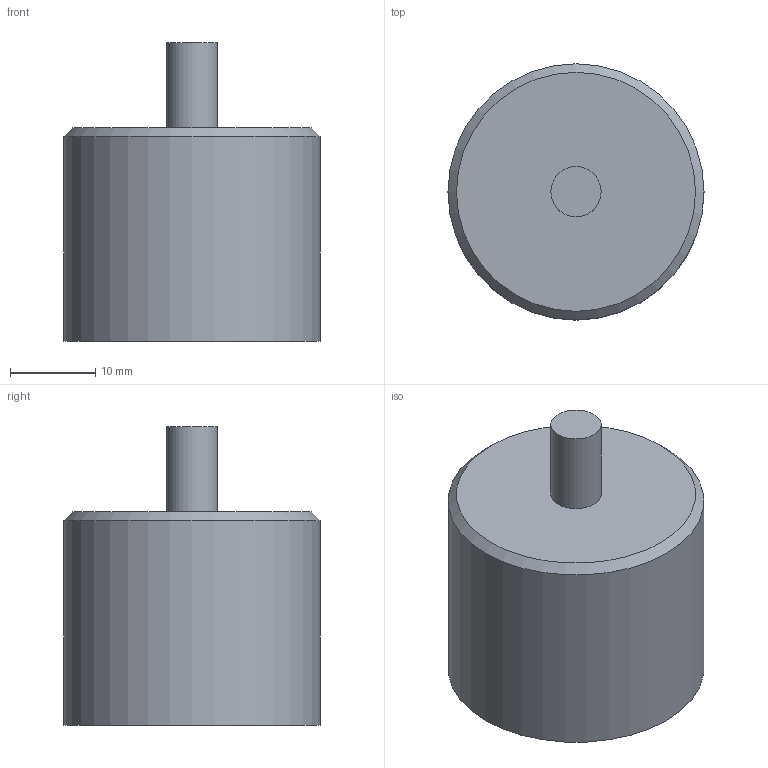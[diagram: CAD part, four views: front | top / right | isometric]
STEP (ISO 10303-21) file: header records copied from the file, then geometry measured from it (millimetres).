
FILE_DESCRIPTION(/* description */ (''),/* implementation_level */ '2;1');
FILE_NAME(/* name */ 'C:/Users/hiroshi_y/Documents/Fusion 360/PMH-0-30x25.step',/* time_stamp */ '2022-11-28T16:51:38+09:00',/* author */ (''),/* organization */ (''),/* preprocessor_version */ 'ST-DEVELOPER v19',/* originating_system */ 'Autodesk Translation Framework v11.7.0.108',/* authorisation */ '');
FILE_SCHEMA (('AUTOMOTIVE_DESIGN { 1 0 10303 214 3 1 1 }'));
Length unit declared in the file: millimetre
Products named in the file (1): PMH-0-30x25
Bounding box: 30 x 30 x 35 mm (x, y, z)
Volume: 17890.4 mm3; surface area: 3905.2 mm2
Topology: 1 solids, 1 shells, 10 faces, 14 edges, 9 vertices
Faces by surface type: plane 5, cylinder 4, cone 1
Full cylindrical faces by diameter (mm): 5.884 x1, 20 x1, 24 x1, 30 x1
Entity records: 267 total; most frequent: DIRECTION 45, CARTESIAN_POINT 34, ORIENTED_EDGE 28, AXIS2_PLACEMENT_3D 20, EDGE_CURVE 14, EDGE_LOOP 13, FACE_OUTER_BOUND 10, ADVANCED_FACE 10
